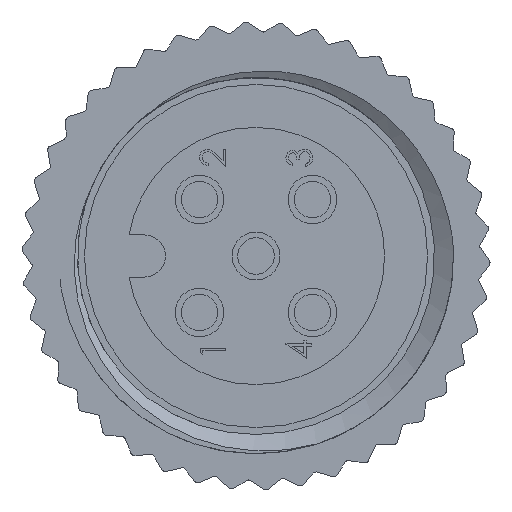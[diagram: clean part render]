
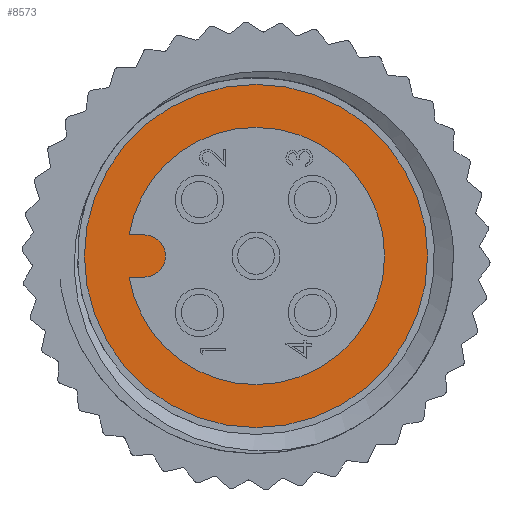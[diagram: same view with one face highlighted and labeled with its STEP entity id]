
A CAD part, left-side view. The second image highlights one B-rep face of the part: STEP entity #8573.
In plain terms, the highlighted planar face has unit normal (-1, 0, 0).
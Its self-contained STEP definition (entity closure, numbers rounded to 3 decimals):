
#425 = ORIENTED_EDGE ( 'NONE', *, *, #2869, .T. ) ;
#866 = VERTEX_POINT ( 'NONE', #2787 ) ;
#1207 = EDGE_CURVE ( 'NONE', #3181, #3117, #10900, .T. ) ;
#1600 = CARTESIAN_POINT ( 'NONE',  ( 8.509, 0., 0. ) ) ;
#1789 = DIRECTION ( 'NONE',  ( 0., 0., 1. ) ) ;
#1956 = AXIS2_PLACEMENT_3D ( 'NONE', #15174, #4301, #16988 ) ;
#2661 = AXIS2_PLACEMENT_3D ( 'NONE', #3645, #16338, #5472 ) ;
#2787 = CARTESIAN_POINT ( 'NONE',  ( 8.509, 3.971, 0.66 ) ) ;
#2869 = EDGE_CURVE ( 'NONE', #9593, #18648, #7190, .T. ) ;
#3059 = CIRCLE ( 'NONE', #12013, 0.66 ) ;
#3094 = PLANE ( 'NONE',  #7952 ) ;
#3117 = VERTEX_POINT ( 'NONE', #15142 ) ;
#3181 = VERTEX_POINT ( 'NONE', #17098 ) ;
#3438 = DIRECTION ( 'NONE',  ( 0., 0., 1. ) ) ;
#3645 = CARTESIAN_POINT ( 'NONE',  ( 8.509, 0., 0. ) ) ;
#4301 = DIRECTION ( 'NONE',  ( -1., 0., 0. ) ) ;
#4815 = VERTEX_POINT ( 'NONE', #22803 ) ;
#5472 = DIRECTION ( 'NONE',  ( 0., 0., 1. ) ) ;
#5791 = EDGE_CURVE ( 'NONE', #15089, #866, #10733, .T. ) ;
#5929 = VECTOR ( 'NONE', #15229, 1000. ) ;
#6109 = AXIS2_PLACEMENT_3D ( 'NONE', #23530, #12642, #1789 ) ;
#6282 = ORIENTED_EDGE ( 'NONE', *, *, #11699, .T. ) ;
#6480 = CARTESIAN_POINT ( 'NONE',  ( 8.509, 0., 0. ) ) ;
#7190 = LINE ( 'NONE', #23388, #21675 ) ;
#7952 = AXIS2_PLACEMENT_3D ( 'NONE', #19508, #8617, #21331 ) ;
#8286 = DIRECTION ( 'NONE',  ( 0., 0., 1. ) ) ;
#8394 = FACE_OUTER_BOUND ( 'NONE', #19962, .T. ) ;
#8497 = CARTESIAN_POINT ( 'NONE',  ( 8.509, 3.971, -0.66 ) ) ;
#8573 = ADVANCED_FACE ( 'NONE', ( #8394, #8971 ), #3094, .F. ) ;
#8617 = DIRECTION ( 'NONE',  ( 1., 0., 0. ) ) ;
#8786 = EDGE_CURVE ( 'NONE', #3117, #866, #16653, .T. ) ;
#8971 = FACE_BOUND ( 'NONE', #17821, .T. ) ;
#9593 = VERTEX_POINT ( 'NONE', #8497 ) ;
#10155 = CARTESIAN_POINT ( 'NONE',  ( 8.509, 0., 5.372 ) ) ;
#10182 = CARTESIAN_POINT ( 'NONE',  ( 8.509, 3.493, -0.66 ) ) ;
#10713 = CARTESIAN_POINT ( 'NONE',  ( 8.509, 3.493, 0. ) ) ;
#10733 = LINE ( 'NONE', #13360, #5929 ) ;
#10900 = CIRCLE ( 'NONE', #11329, 4.026 ) ;
#11329 = AXIS2_PLACEMENT_3D ( 'NONE', #1600, #14284, #3438 ) ;
#11422 = EDGE_CURVE ( 'NONE', #9593, #3181, #20775, .T. ) ;
#11475 = ORIENTED_EDGE ( 'NONE', *, *, #12289, .T. ) ;
#11699 = EDGE_CURVE ( 'NONE', #19028, #4815, #15383, .T. ) ;
#11899 = CARTESIAN_POINT ( 'NONE',  ( 8.509, 3.493, 0.66 ) ) ;
#12013 = AXIS2_PLACEMENT_3D ( 'NONE', #10713, #23420, #12534 ) ;
#12289 = EDGE_CURVE ( 'NONE', #4815, #19028, #14445, .T. ) ;
#12534 = DIRECTION ( 'NONE',  ( 0., 0., 1. ) ) ;
#12642 = DIRECTION ( 'NONE',  ( -1., 0., 0. ) ) ;
#12777 = EDGE_CURVE ( 'NONE', #18648, #15089, #3059, .T. ) ;
#13360 = CARTESIAN_POINT ( 'NONE',  ( 8.509, 3.493, 0.66 ) ) ;
#14284 = DIRECTION ( 'NONE',  ( -1., 0., 0. ) ) ;
#14331 = DIRECTION ( 'NONE',  ( 0., -1., 0. ) ) ;
#14445 = CIRCLE ( 'NONE', #6109, 5.372 ) ;
#15089 = VERTEX_POINT ( 'NONE', #11899 ) ;
#15142 = CARTESIAN_POINT ( 'NONE',  ( 8.509, 0., 4.026 ) ) ;
#15174 = CARTESIAN_POINT ( 'NONE',  ( 8.509, 0., 0. ) ) ;
#15229 = DIRECTION ( 'NONE',  ( 0., 1., 0. ) ) ;
#15383 = CIRCLE ( 'NONE', #18538, 5.372 ) ;
#16233 = ORIENTED_EDGE ( 'NONE', *, *, #12777, .T. ) ;
#16338 = DIRECTION ( 'NONE',  ( -1., 0., 0. ) ) ;
#16519 = ORIENTED_EDGE ( 'NONE', *, *, #5791, .T. ) ;
#16653 = CIRCLE ( 'NONE', #2661, 4.026 ) ;
#16988 = DIRECTION ( 'NONE',  ( 0., 0., 1. ) ) ;
#17098 = CARTESIAN_POINT ( 'NONE',  ( 8.509, 0., -4.026 ) ) ;
#17821 = EDGE_LOOP ( 'NONE', ( #18972, #425, #16233, #16519, #18718, #20904 ) ) ;
#18538 = AXIS2_PLACEMENT_3D ( 'NONE', #6480, #19167, #8286 ) ;
#18648 = VERTEX_POINT ( 'NONE', #10182 ) ;
#18718 = ORIENTED_EDGE ( 'NONE', *, *, #8786, .F. ) ;
#18972 = ORIENTED_EDGE ( 'NONE', *, *, #11422, .F. ) ;
#19028 = VERTEX_POINT ( 'NONE', #10155 ) ;
#19167 = DIRECTION ( 'NONE',  ( -1., 0., 0. ) ) ;
#19508 = CARTESIAN_POINT ( 'NONE',  ( 8.509, 4.026, 0. ) ) ;
#19962 = EDGE_LOOP ( 'NONE', ( #6282, #11475 ) ) ;
#20775 = CIRCLE ( 'NONE', #1956, 4.026 ) ;
#20904 = ORIENTED_EDGE ( 'NONE', *, *, #1207, .F. ) ;
#21331 = DIRECTION ( 'NONE',  ( 0., 0., -1. ) ) ;
#21675 = VECTOR ( 'NONE', #14331, 1000. ) ;
#22803 = CARTESIAN_POINT ( 'NONE',  ( 8.509, 0., -5.372 ) ) ;
#23388 = CARTESIAN_POINT ( 'NONE',  ( 8.509, 3.493, -0.66 ) ) ;
#23420 = DIRECTION ( 'NONE',  ( -1., 0., 0. ) ) ;
#23530 = CARTESIAN_POINT ( 'NONE',  ( 8.509, 0., 0. ) ) ;
